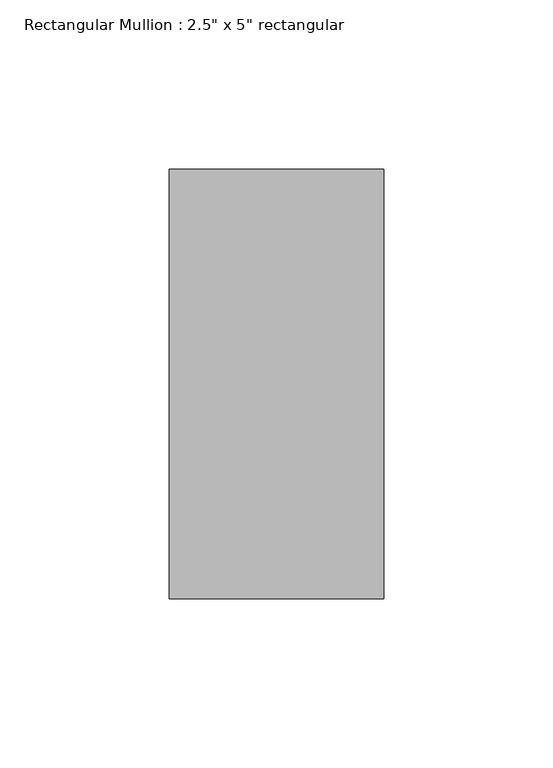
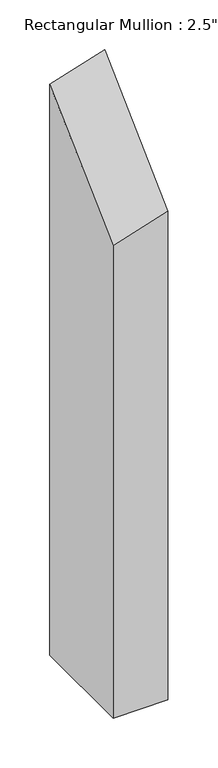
"""IFC4 building model written with IfcOpenShell, lengths in millimetres: member geometry."""

import ifcopenshell
import ifcopenshell.guid

model = None  # the IFC model being written
_history = None  # IfcOwnerHistory: only IFC2X3 demands one
_inside = {}  # id of a spatial element -> (the spatial element, [elements in it])
_under = {}  # id of a project, library or spatial element -> (it, [spatial elements below it])
_declared = {}  # id of a project -> (the project, [libraries it declares])
_typed = {}  # id of a type object -> (the type object, [elements of that type])
_made_of = {}  # id of a material, layer set ... -> (it, [elements and type objects made of it])


def new_model(schema):
    """Start an empty IFC model of exactly this schema.

    Asked for "IFC4X3", IfcOpenShell would pick the latest addendum, in which some entities
    have other attributes; the version numbers below select the first issue.
    IFC2X3 requires an IfcOwnerHistory on every rooted entity: one is made here for all.
    """
    global model, _history
    if schema == "IFC4X3":
        model = ifcopenshell.file(schema_version=(4, 3, 0, 0))
    else:
        model = ifcopenshell.file(schema=schema)
    _inside.clear()
    _under.clear()
    _declared.clear()
    _typed.clear()
    _made_of.clear()
    _history = None
    if model.schema == "IFC2X3":
        org = make("IfcOrganization", Name="unknown")
        user = make(
            "IfcPersonAndOrganization",
            ThePerson=make("IfcPerson", FamilyName="unknown"),
            TheOrganization=org,
        )
        app = make(
            "IfcApplication",
            ApplicationDeveloper=org,
            Version="unknown",
            ApplicationFullName="unknown",
            ApplicationIdentifier="unknown",
        )
        _history = make(
            "IfcOwnerHistory",
            OwningUser=user,
            OwningApplication=app,
            ChangeAction="ADDED",
            CreationDate=0,
        )
    return model


def make(cls, **values):
    """One entity of the class cls with the attributes given. An attribute that is None is left unset."""
    return model.create_entity(
        cls, **{name: value for name, value in values.items() if value is not None}
    )


def rooted(cls, **values):
    """An entity with a GlobalId (a new one), such as an element, a storey or a relation."""
    return make(cls, GlobalId=ifcopenshell.guid.new(), OwnerHistory=_history, **values)


def si_unit(unit_type, name, prefix=None):
    """IfcSIUnit, for example si_unit("LENGTHUNIT", "METRE", prefix="MILLI")."""
    return make("IfcSIUnit", UnitType=unit_type, Prefix=prefix, Name=name)


def assignment(units):
    """IfcUnitAssignment: the units of a project."""
    return None if units is None else make("IfcUnitAssignment", Units=units)


def point(xyz):
    """IfcCartesianPoint."""
    return None if xyz is None else make("IfcCartesianPoint", Coordinates=xyz)


def direction(xyz):
    """IfcDirection."""
    return None if xyz is None else make("IfcDirection", DirectionRatios=xyz)


def frame(location, z_axis=None, x_axis=None):
    """IfcAxis2Placement3D, a coordinate frame: its origin and axes. An axis left out is left unset."""
    return make(
        "IfcAxis2Placement3D",
        Location=point(location),
        Axis=direction(z_axis),
        RefDirection=direction(x_axis),
    )


def origin():
    """The frame at (0, 0, 0) with its axes left unset."""
    return frame((0.0, 0.0, 0.0))


def place(relative_to, where):
    """IfcLocalPlacement: puts the frame where relative to a parent placement (None: the world)."""
    return make(
        "IfcLocalPlacement", PlacementRelTo=relative_to, RelativePlacement=where
    )


def context(
    kind, dimensions, precision=None, world=None, true_north=None, identifier=None
):
    """IfcGeometricRepresentationContext, for example the 3D "Model" context."""
    return make(
        "IfcGeometricRepresentationContext",
        ContextIdentifier=identifier,
        ContextType=kind,
        CoordinateSpaceDimension=dimensions,
        Precision=precision,
        WorldCoordinateSystem=world,
        TrueNorth=true_north,
    )


def project(units=None, contexts=None):
    """IfcProject with its units and contexts."""
    return rooted(
        "IfcProject",
        Name="project",
        RepresentationContexts=contexts,
        UnitsInContext=assignment(units),
    )


def spatial(cls, under=None, at=None, **own):
    """A site, building, storey or space (cls), placed at a placement, below another one or the project."""
    s = rooted(cls, ObjectPlacement=at, **own)
    if under is not None:
        _under.setdefault(under.id(), (under, []))[1].append(s)
    return s


def faces_of(points, faces, orient=None, outer=None):
    """IfcFace entities. A face is a list of loops; a loop is a list of indices into points, from 0.

    orient and outer hold one flag for each loop. By default every Orientation is true, the
    first loop of a face is its IfcFaceOuterBound and the others are IfcFaceBound.
    """
    made = []
    for i, loops in enumerate(faces):
        bounds = []
        for j, loop in enumerate(loops):
            is_outer = j == 0 if outer is None else outer[i][j]
            bounds.append(
                make(
                    "IfcFaceOuterBound" if is_outer else "IfcFaceBound",
                    Bound=make("IfcPolyLoop", Polygon=[points[k] for k in loop]),
                    Orientation=True if orient is None else orient[i][j],
                )
            )
        made.append(make("IfcFace", Bounds=bounds))
    return made


def faceted_brep(points, faces, orient=None, outer=None, voids=None):
    """IfcFacetedBrep: a solid bounded by flat faces; with voids (closed shells), ...WithVoids."""
    shared = [point(p) for p in points]
    hull = make("IfcClosedShell", CfsFaces=faces_of(shared, faces, orient, outer))
    if voids is None:
        return make("IfcFacetedBrep", Outer=hull)
    return make(
        "IfcFacetedBrepWithVoids",
        Outer=hull,
        Voids=[
            make(cls, CfsFaces=faces_of(shared, fs, o, b)) for cls, fs, o, b in voids
        ],
    )


def shape(context_of_items, identifier, shape_type, items):
    """IfcShapeRepresentation: the items that make up one representation, for example the "Body"."""
    return make(
        "IfcShapeRepresentation",
        ContextOfItems=context_of_items,
        RepresentationIdentifier=identifier,
        RepresentationType=shape_type,
        Items=items,
    )


def source(mapping_origin, context_of_items, identifier, shape_type, items):
    """IfcRepresentationMap: a shape defined once, which mapped items show again and again."""
    return make(
        "IfcRepresentationMap",
        MappingOrigin=mapping_origin,
        MappedRepresentation=shape(context_of_items, identifier, shape_type, items),
    )


def transform(
    local_origin,
    x_axis=None,
    y_axis=None,
    z_axis=None,
    scale=None,
    scale2=None,
    scale3=None,
    uniform=True,
):
    """IfcCartesianTransformationOperator3D, or its non-uniform kind. x_axis, y_axis, z_axis: its Axis1, 2, 3."""
    if uniform:
        return make(
            "IfcCartesianTransformationOperator3D",
            Axis1=direction(x_axis),
            Axis2=direction(y_axis),
            LocalOrigin=point(local_origin),
            Scale=scale,
            Axis3=direction(z_axis),
        )
    return make(
        "IfcCartesianTransformationOperator3DnonUniform",
        Axis1=direction(x_axis),
        Axis2=direction(y_axis),
        LocalOrigin=point(local_origin),
        Scale=scale,
        Axis3=direction(z_axis),
        Scale2=scale2,
        Scale3=scale3,
    )


def mapped(mapping_source, mapping_target):
    """IfcMappedItem: shows the shape of a source again, moved by a transform."""
    return make(
        "IfcMappedItem", MappingSource=mapping_source, MappingTarget=mapping_target
    )


def made_of(thing, what):
    """Note that an element or type object is made of a material, layer set ...; save() writes the relation."""
    if what is not None:
        _made_of.setdefault(what.id(), (what, []))[1].append(thing)
    return thing


def element(
    cls,
    number,
    at=None,
    inside=None,
    cuts=None,
    type_object=None,
    material=None,
    context=None,
    identifier="Body",
    shape_type=None,
    held_by="IfcProductDefinitionShape",
    body=None,
    shapes=None,
    **own,
):
    """One element of the class cls, such as IfcWall. Its Tag is "e" and its number.

    at: its placement. inside: the storey or other place that contains it. cuts: it is an
    opening in that element (IfcRelVoidsElement). A single representation is given by context,
    identifier, shape_type and body (its items); several are given by shapes. held_by: the class
    of the entity that holds the representations. save() writes the other relations.
    """
    e = rooted(cls, Tag="e%d" % number, ObjectPlacement=at, **own)
    if body is not None:
        shapes = [shape(context, identifier, shape_type, body)]
    if shapes is not None:
        e.Representation = make(held_by, Representations=shapes)
    if inside is not None:
        _inside.setdefault(inside.id(), (inside, []))[1].append(e)
    if cuts is not None:
        rooted(
            "IfcRelVoidsElement", RelatingBuildingElement=cuts, RelatedOpeningElement=e
        )
    if type_object is not None:
        _typed.setdefault(type_object.id(), (type_object, []))[1].append(e)
    return made_of(e, material)


def aggregate(whole, parts):
    """IfcRelAggregates: a whole, such as a stair, and the parts it consists of."""
    return rooted("IfcRelAggregates", RelatingObject=whole, RelatedObjects=parts)


def save(model, path):
    """Write the relations noted so far, then the file.

    IfcRelAggregates (storeys below a building ...), IfcRelContainedInSpatialStructure (elements
    in a storey), IfcRelDefinesByType, IfcRelAssociatesMaterial and IfcRelDeclares: one each for
    every whole, place, type object, material and project.
    """
    for whole, parts in _under.values():
        aggregate(whole, parts)
    for where, things in _inside.values():
        rooted(
            "IfcRelContainedInSpatialStructure",
            RelatedElements=things,
            RelatingStructure=where,
        )
    for kind, things in _typed.values():
        rooted("IfcRelDefinesByType", RelatedObjects=things, RelatingType=kind)
    for what, things in _made_of.values():
        rooted("IfcRelAssociatesMaterial", RelatedObjects=things, RelatingMaterial=what)
    for by, libraries in _declared.values():
        rooted("IfcRelDeclares", RelatingContext=by, RelatedDefinitions=libraries)
    model.write(path)


def member_d798ba6b(model_context):
    return source(origin(), model_context, "Body", "Brep", [
        faceted_brep([(0.0, 63.5, -658.9), (0.0, -63.5, -658.9), (-63.5, -63.5, -658.9), (-63.5, 63.5, -658.9), (-63.5, 63.5, 40.1609263), (0.0, 63.5, 60.2413894), (-63.5, -63.5, -80.3218526), (0.0, -63.5, -60.2413894)], [[[0, 1, 2, 3]], [[4, 5, 0, 3]], [[6, 4, 3, 2]], [[7, 6, 2, 1]], [[5, 7, 1, 0]], [[5, 4, 6, 7]]]),
    ])


if __name__ == "__main__":
    model = new_model("IFC4")
    model_context = context("Model", 3, world=origin())
    ifc_project = project(units=[si_unit("LENGTHUNIT", "METRE", prefix="MILLI")], contexts=[model_context])
    site = spatial("IfcSite", under=ifc_project)
    building = spatial("IfcBuilding", under=site)
    placement = place(None, origin())
    member_shape = member_d798ba6b(model_context)
    element("IfcMember", 1, ObjectType="Rectangular Mullion : 2.5\" x 5\" rectangular", at=placement, inside=building, context=model_context, shape_type="MappedRepresentation", body=[
        mapped(member_shape, transform((0.0, 0.0, 0.0), x_axis=(1.0, 0.0, 0.0), y_axis=(0.0, 1.0, 0.0), z_axis=(0.0, 0.0, 1.0))),
    ])
    save(model, "model.ifc")
